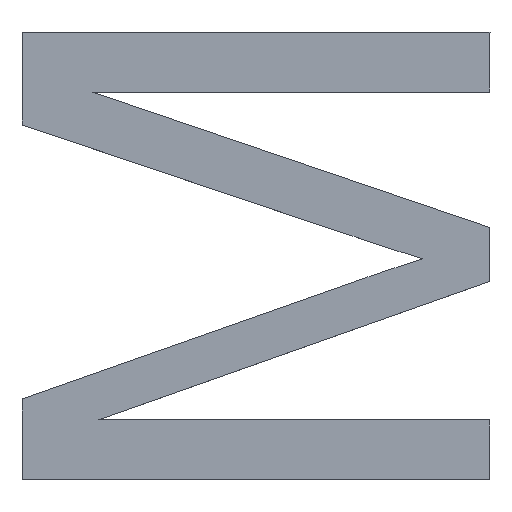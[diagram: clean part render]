
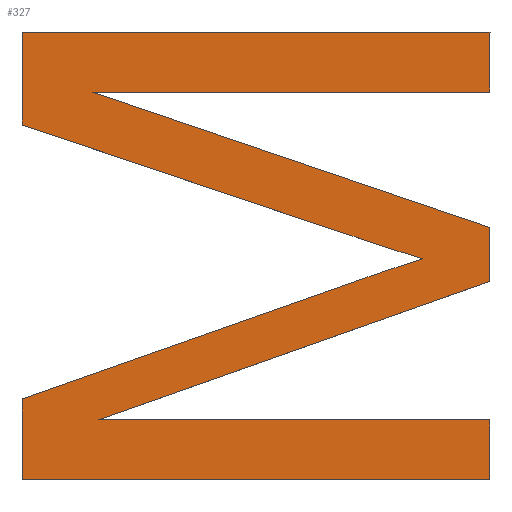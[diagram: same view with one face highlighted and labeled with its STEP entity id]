
A CAD part, top view. The second image highlights one B-rep face of the part: STEP entity #327.
In plain terms, the highlighted planar face has unit normal (0, 0, 1).
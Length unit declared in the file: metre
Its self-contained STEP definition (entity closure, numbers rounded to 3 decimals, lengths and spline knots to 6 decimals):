
#13=CIRCLE('',#347,0.00787);
#15=CIRCLE('',#350,0.00872);
#80=ORIENTED_EDGE('',*,*,#154,.T.);
#81=ORIENTED_EDGE('',*,*,#152,.T.);
#82=ORIENTED_EDGE('',*,*,#149,.T.);
#83=ORIENTED_EDGE('',*,*,#146,.T.);
#84=ORIENTED_EDGE('',*,*,#143,.T.);
#85=ORIENTED_EDGE('',*,*,#140,.T.);
#86=ORIENTED_EDGE('',*,*,#137,.T.);
#87=ORIENTED_EDGE('',*,*,#134,.T.);
#88=ORIENTED_EDGE('',*,*,#131,.T.);
#89=ORIENTED_EDGE('',*,*,#128,.T.);
#90=ORIENTED_EDGE('',*,*,#125,.T.);
#91=ORIENTED_EDGE('',*,*,#122,.T.);
#92=ORIENTED_EDGE('',*,*,#119,.T.);
#93=ORIENTED_EDGE('',*,*,#116,.T.);
#94=ORIENTED_EDGE('',*,*,#113,.T.);
#113=EDGE_CURVE('',#155,#158,#188,.T.);
#116=EDGE_CURVE('',#159,#155,#191,.F.);
#119=EDGE_CURVE('',#161,#159,#194,.F.);
#122=EDGE_CURVE('',#163,#161,#197,.T.);
#125=EDGE_CURVE('',#165,#163,#200,.F.);
#128=EDGE_CURVE('',#167,#165,#203,.T.);
#131=EDGE_CURVE('',#169,#167,#206,.T.);
#134=EDGE_CURVE('',#171,#169,#209,.F.);
#137=EDGE_CURVE('',#173,#171,#212,.F.);
#140=EDGE_CURVE('',#175,#173,#215,.T.);
#143=EDGE_CURVE('',#177,#175,#217,.T.);
#146=EDGE_CURVE('',#179,#177,#13,.F.);
#149=EDGE_CURVE('',#181,#179,#15,.F.);
#152=EDGE_CURVE('',#183,#181,#221,.T.);
#154=EDGE_CURVE('',#158,#183,#223,.T.);
#155=VERTEX_POINT('',#441);
#158=VERTEX_POINT('',#446);
#159=VERTEX_POINT('',#450);
#161=VERTEX_POINT('',#456);
#163=VERTEX_POINT('',#462);
#165=VERTEX_POINT('',#468);
#167=VERTEX_POINT('',#474);
#169=VERTEX_POINT('',#480);
#171=VERTEX_POINT('',#486);
#173=VERTEX_POINT('',#492);
#175=VERTEX_POINT('',#498);
#177=VERTEX_POINT('',#507);
#179=VERTEX_POINT('',#513);
#181=VERTEX_POINT('',#522);
#183=VERTEX_POINT('',#528);
#188=LINE('',#447,#227);
#191=LINE('',#453,#230);
#194=LINE('',#459,#233);
#197=LINE('',#465,#236);
#200=LINE('',#471,#239);
#203=LINE('',#477,#242);
#206=LINE('',#483,#245);
#209=LINE('',#489,#248);
#212=LINE('',#495,#251);
#215=LINE('',#501,#254);
#217=LINE('',#510,#256);
#221=LINE('',#531,#260);
#223=LINE('',#534,#262);
#227=VECTOR('',#362,1.);
#230=VECTOR('',#367,1.);
#233=VECTOR('',#372,1.);
#236=VECTOR('',#377,1.);
#239=VECTOR('',#382,1.);
#242=VECTOR('',#387,1.);
#245=VECTOR('',#392,1.);
#248=VECTOR('',#397,1.);
#251=VECTOR('',#402,1.);
#254=VECTOR('',#407,1.);
#256=VECTOR('',#411,1.);
#260=VECTOR('',#429,1.);
#262=VECTOR('',#433,1.);
#278=EDGE_LOOP('',(#80,#81,#82,#83,#84,#85,#86,#87,#88,#89,#90,#91,#92,
#93,#94));
#295=FACE_BOUND('',#278,.T.);
#310=PLANE('',#353);
#327=ADVANCED_FACE('',(#295),#310,.F.);
#347=AXIS2_PLACEMENT_3D('',#516,#417,#418);
#350=AXIS2_PLACEMENT_3D('',#525,#423,#424);
#353=AXIS2_PLACEMENT_3D('',#535,#434,#435);
#362=DIRECTION('',(-1.,0.,0.));
#367=DIRECTION('',(0.,-1.,0.));
#372=DIRECTION('',(-1.,0.,0.));
#377=DIRECTION('',(-0.947,0.322,0.));
#382=DIRECTION('',(0.,-1.,0.));
#387=DIRECTION('',(0.943,0.333,0.));
#392=DIRECTION('',(-1.,0.,0.));
#397=DIRECTION('',(0.,-1.,0.));
#402=DIRECTION('',(-1.,0.,0.));
#407=DIRECTION('',(0.,-1.,0.));
#411=DIRECTION('',(-0.943,-0.333,0.));
#417=DIRECTION('',(0.,0.,-1.));
#418=DIRECTION('',(1.,0.,0.));
#423=DIRECTION('',(0.,0.,-1.));
#424=DIRECTION('',(1.,0.,0.));
#429=DIRECTION('',(0.948,-0.319,0.));
#433=DIRECTION('',(0.,-1.,0.));
#434=DIRECTION('',(0.,0.,-1.));
#435=DIRECTION('',(0.,-1.,0.));
#441=CARTESIAN_POINT('',(-0.022188,-0.003154,-0.03));
#446=CARTESIAN_POINT('',(-0.02331,-0.003154,-0.03));
#447=CARTESIAN_POINT('',(-0.02273,-0.003154,-0.03));
#450=CARTESIAN_POINT('',(-0.022188,-0.003297,-0.03));
#453=CARTESIAN_POINT('',(-0.022188,-0.00369,-0.03));
#456=CARTESIAN_POINT('',(-0.023141,-0.003297,-0.03));
#459=CARTESIAN_POINT('',(-0.02273,-0.003297,-0.03));
#462=CARTESIAN_POINT('',(-0.022188,-0.003621,-0.03));
#465=CARTESIAN_POINT('',(-0.022188,-0.003621,-0.03));
#468=CARTESIAN_POINT('',(-0.022188,-0.003751,-0.03));
#471=CARTESIAN_POINT('',(-0.022188,-0.00369,-0.03));
#474=CARTESIAN_POINT('',(-0.023128,-0.004083,-0.03));
#477=CARTESIAN_POINT('',(-0.023128,-0.004083,-0.03));
#480=CARTESIAN_POINT('',(-0.022188,-0.004083,-0.03));
#483=CARTESIAN_POINT('',(-0.02273,-0.004083,-0.03));
#486=CARTESIAN_POINT('',(-0.022188,-0.004226,-0.03));
#489=CARTESIAN_POINT('',(-0.022188,-0.00369,-0.03));
#492=CARTESIAN_POINT('',(-0.02331,-0.004226,-0.03));
#495=CARTESIAN_POINT('',(-0.02273,-0.004226,-0.03));
#498=CARTESIAN_POINT('',(-0.02331,-0.004033,-0.03));
#501=CARTESIAN_POINT('',(-0.02331,-0.00369,-0.03));
#507=CARTESIAN_POINT('',(-0.022531,-0.003758,-0.03));
#510=CARTESIAN_POINT('',(-0.022531,-0.003758,-0.03));
#513=CARTESIAN_POINT('',(-0.022351,-0.003697,-0.03));
#516=CARTESIAN_POINT('',(-0.019902,-0.011176,-0.03));
#522=CARTESIAN_POINT('',(-0.022517,-0.003643,-0.03));
#525=CARTESIAN_POINT('',(-0.019738,0.004623,-0.03));
#528=CARTESIAN_POINT('',(-0.02331,-0.003376,-0.03));
#531=CARTESIAN_POINT('',(-0.02331,-0.003376,-0.03));
#534=CARTESIAN_POINT('',(-0.02331,-0.00369,-0.03));
#535=CARTESIAN_POINT('',(-0.02273,-0.00369,-0.03));
